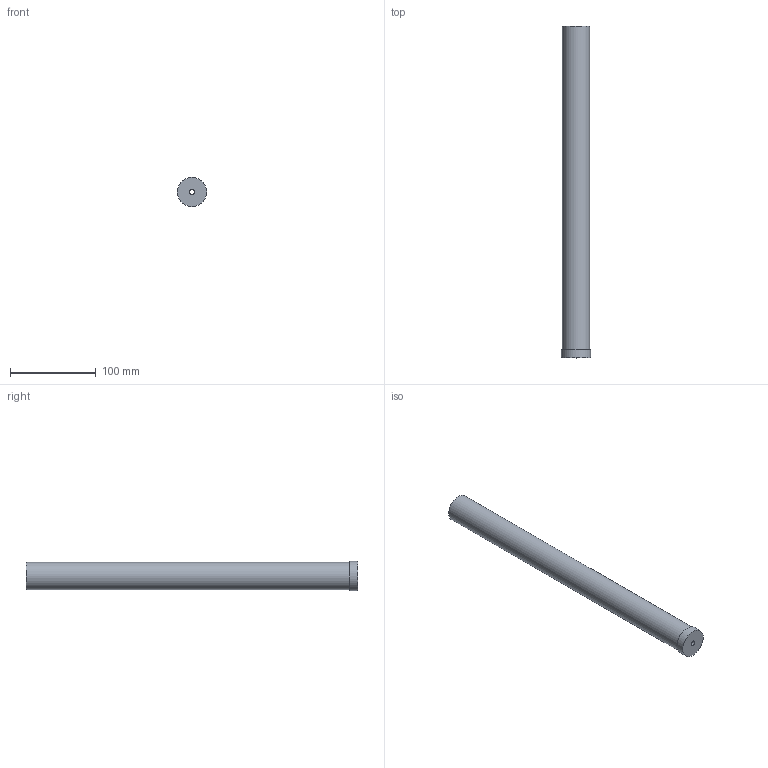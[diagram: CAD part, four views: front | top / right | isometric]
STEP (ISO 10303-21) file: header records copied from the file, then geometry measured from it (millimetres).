
FILE_DESCRIPTION(/* description */ ('STEP AP242 Edition 2','CAx-IF Rec.Pracs.---Representation and Presentation of Product Manufacturing Information (PMI)---4.0---2014-10-13','CAx-IF Rec.Pracs.---3D Tessellated Geometry---0.4---2014-09-14','2;1','CAx-IF Rec.Pracs.---User Defined Attributes---1.5---2016-08-15'),/* implementation_level */ '2;1');
FILE_NAME(/* name */ 'Assembly V2 - 1 1-4- x .120- DOM Steel Tube',/* time_stamp */ '2026-02-05T22:44:35Z',/* author */ (''),/* organization */ (''),/* preprocessor_version */ 'ST-DEVELOPER v20',/* originating_system */ 'ONSHAPE BY PTC INC, 1.210',/* authorisation */ ' ');
FILE_SCHEMA (('AP242_MANAGED_MODEL_BASED_3D_ENGINEERING_MIM_LF { 1 0 10303 442 3 1 4 }'));
Length unit declared in the file: metre
Products named in the file (1): 1 1/4" x .120" DOM Steel Tube
Bounding box: 34 x 387.35 x 34 mm (x, y, z)
Volume: 110668 mm3; surface area: 71289.2 mm2
Topology: 1 solids, 1 shells, 8 faces, 12 edges, 8 vertices
Faces by surface type: cylinder 4, plane 4
Full cylindrical faces by diameter (mm): 6 x1, 25.654 x1, 31.75 x1, 34 x1
Entity records: 190 total; most frequent: DIRECTION 34, CARTESIAN_POINT 25, AXIS2_PLACEMENT_3D 17, ORIENTED_EDGE 16, EDGE_LOOP 16, FACE_BOUND 16, EDGE_CURVE 8, VERTEX_POINT 8
